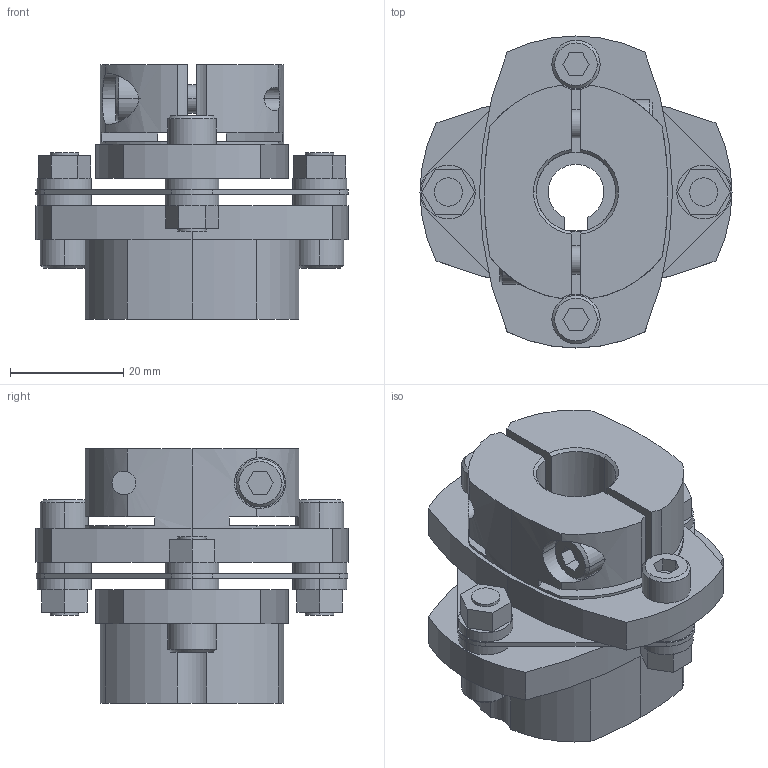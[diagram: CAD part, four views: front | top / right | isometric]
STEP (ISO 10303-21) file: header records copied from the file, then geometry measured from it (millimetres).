
FILE_DESCRIPTION((''),'2;1');
FILE_NAME('LCS-55M-11L亊14B.stp','2011-08-20T15:32:29',(''),(''),'AutoCAD STEP 2000i','AutoCAD 2000i',', , ');
FILE_SCHEMA(('CONFIG_CONTROL_DESIGN'));
Length unit declared in the file: millimetre
Products named in the file (6): LCS-55M-11L×10B; 忣兜1; LC55M-L011; LC55-B010-1; LC55-B010; LCS55-ITA
Assembly tree (6 placements, depth 2):
  LCS-55M-11L×10B
    忣兜1
    LC55M-L011  x2
    LC55-B010-1
    LC55-B010
    LCS55-ITA
Bounding box: 55 x 55 x 44.8 mm (x, y, z)
Volume: 45241.3 mm3; surface area: 19182.3 mm2
Topology: 1 solids, 1 shells, 240 faces, 608 edges, 400 vertices
Faces by surface type: plane 115, cylinder 104, cone 21
Entity records: 7727 total; most frequent: CARTESIAN_POINT 1547, DIRECTION 1320, ORIENTED_EDGE 1216, EDGE_CURVE 608, AXIS2_PLACEMENT_3D 487, VERTEX_POINT 400, VECTOR 346, LINE 346
